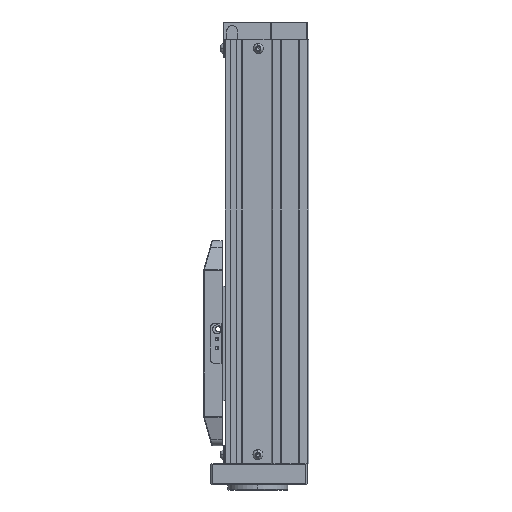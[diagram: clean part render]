
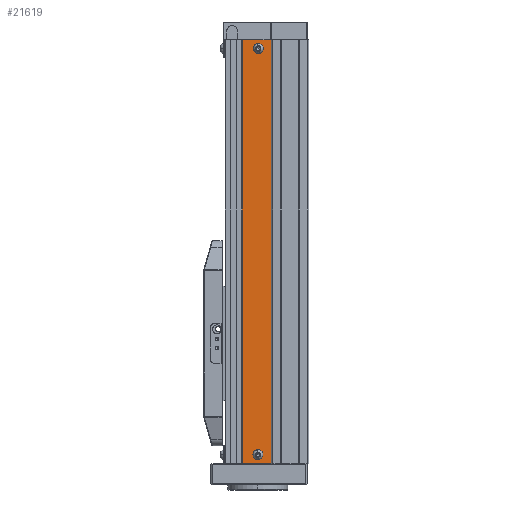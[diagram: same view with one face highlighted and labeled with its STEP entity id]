
A CAD part, left-side view. The second image highlights one B-rep face of the part: STEP entity #21619.
In plain terms, the highlighted planar face has unit normal (-1, 0, 0) as drawn and (1, 0, 0) by its records, which use the part's own axes.
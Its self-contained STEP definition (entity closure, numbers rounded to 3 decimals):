
#219 = DIRECTION ( 'NONE',  ( 0., 0., -1. ) ) ;
#743 = CARTESIAN_POINT ( 'NONE',  ( 0., 0., 240. ) ) ;
#1205 = EDGE_LOOP ( 'NONE', ( #8641, #20088 ) ) ;
#1470 = EDGE_CURVE ( 'NONE', #26528, #14601, #18398, .T. ) ;
#1546 = CARTESIAN_POINT ( 'NONE',  ( 0., 9., 236.75 ) ) ;
#1822 = CARTESIAN_POINT ( 'NONE',  ( 0., 8.5, 3.25 ) ) ;
#2071 = CARTESIAN_POINT ( 'NONE',  ( 0., 17.6, 240. ) ) ;
#2505 = DIRECTION ( 'NONE',  ( 1., 0., 0. ) ) ;
#3129 = DIRECTION ( 'NONE',  ( 0., 0., 1. ) ) ;
#3166 = DIRECTION ( 'NONE',  ( 0., 1., 0. ) ) ;
#3194 = CARTESIAN_POINT ( 'NONE',  ( 0., 9., 233.25 ) ) ;
#3437 = CARTESIAN_POINT ( 'NONE',  ( 0., 0., 240. ) ) ;
#3551 = EDGE_CURVE ( 'NONE', #14601, #26528, #17886, .T. ) ;
#3709 = ORIENTED_EDGE ( 'NONE', *, *, #11452, .T. ) ;
#4288 = LINE ( 'NONE', #7687, #14748 ) ;
#4854 = FACE_BOUND ( 'NONE', #1205, .T. ) ;
#6179 = AXIS2_PLACEMENT_3D ( 'NONE', #13559, #30300, #15957 ) ;
#7238 = VERTEX_POINT ( 'NONE', #13821 ) ;
#7687 = CARTESIAN_POINT ( 'NONE',  ( 0., 0., 240. ) ) ;
#7733 = VERTEX_POINT ( 'NONE', #10950 ) ;
#7773 = CIRCLE ( 'NONE', #8883, 1.75 ) ;
#8641 = ORIENTED_EDGE ( 'NONE', *, *, #1470, .F. ) ;
#8810 = VECTOR ( 'NONE', #20190, 1000. ) ;
#8883 = AXIS2_PLACEMENT_3D ( 'NONE', #16827, #2505, #19247 ) ;
#9705 = VERTEX_POINT ( 'NONE', #2071 ) ;
#10485 = DIRECTION ( 'NONE',  ( 1., 0., 0. ) ) ;
#10707 = EDGE_CURVE ( 'NONE', #24368, #7238, #28311, .T. ) ;
#10950 = CARTESIAN_POINT ( 'NONE',  ( 0., 0., 240. ) ) ;
#11452 = EDGE_CURVE ( 'NONE', #7733, #24368, #27890, .T. ) ;
#12078 = ORIENTED_EDGE ( 'NONE', *, *, #10707, .T. ) ;
#12122 = LINE ( 'NONE', #26502, #28983 ) ;
#12608 = AXIS2_PLACEMENT_3D ( 'NONE', #24837, #10485, #27236 ) ;
#12884 = EDGE_LOOP ( 'NONE', ( #19510, #19807 ) ) ;
#13559 = CARTESIAN_POINT ( 'NONE',  ( 0., 8.5, 5. ) ) ;
#13821 = CARTESIAN_POINT ( 'NONE',  ( 0., 17.6, 0. ) ) ;
#14449 = DIRECTION ( 'NONE',  ( 0., 0., -1. ) ) ;
#14538 = DIRECTION ( 'NONE',  ( 1., 0., 0. ) ) ;
#14601 = VERTEX_POINT ( 'NONE', #16834 ) ;
#14748 = VECTOR ( 'NONE', #19593, 1000. ) ;
#15412 = VERTEX_POINT ( 'NONE', #3194 ) ;
#15957 = DIRECTION ( 'NONE',  ( 0., 0., -1. ) ) ;
#16765 = EDGE_CURVE ( 'NONE', #9705, #7238, #12122, .T. ) ;
#16819 = EDGE_CURVE ( 'NONE', #7733, #9705, #4288, .T. ) ;
#16827 = CARTESIAN_POINT ( 'NONE',  ( 0., 9., 235. ) ) ;
#16834 = CARTESIAN_POINT ( 'NONE',  ( 0., 8.5, 6.75 ) ) ;
#17460 = DIRECTION ( 'NONE',  ( -1., 0., 0. ) ) ;
#17711 = AXIS2_PLACEMENT_3D ( 'NONE', #28874, #14538, #219 ) ;
#17886 = CIRCLE ( 'NONE', #12608, 1.75 ) ;
#18398 = CIRCLE ( 'NONE', #6179, 1.75 ) ;
#19247 = DIRECTION ( 'NONE',  ( 0., 0., -1. ) ) ;
#19510 = ORIENTED_EDGE ( 'NONE', *, *, #24888, .F. ) ;
#19593 = DIRECTION ( 'NONE',  ( 0., 1., 0. ) ) ;
#19807 = ORIENTED_EDGE ( 'NONE', *, *, #31017, .F. ) ;
#20088 = ORIENTED_EDGE ( 'NONE', *, *, #3551, .F. ) ;
#20190 = DIRECTION ( 'NONE',  ( 0., 0., -1. ) ) ;
#20217 = VERTEX_POINT ( 'NONE', #1546 ) ;
#20676 = CARTESIAN_POINT ( 'NONE',  ( 0., 0., 0. ) ) ;
#21619 = ADVANCED_FACE ( 'NONE', ( #29553, #4854, #23219 ), #29374, .F. ) ;
#22322 = CARTESIAN_POINT ( 'NONE',  ( 0., 0., 0. ) ) ;
#23219 = FACE_OUTER_BOUND ( 'NONE', #25605, .T. ) ;
#24368 = VERTEX_POINT ( 'NONE', #20676 ) ;
#24837 = CARTESIAN_POINT ( 'NONE',  ( 0., 8.5, 5. ) ) ;
#24888 = EDGE_CURVE ( 'NONE', #15412, #20217, #29774, .T. ) ;
#25605 = EDGE_LOOP ( 'NONE', ( #12078, #26297, #26254, #3709 ) ) ;
#26254 = ORIENTED_EDGE ( 'NONE', *, *, #16819, .F. ) ;
#26297 = ORIENTED_EDGE ( 'NONE', *, *, #16765, .F. ) ;
#26502 = CARTESIAN_POINT ( 'NONE',  ( 0., 17.6, 240. ) ) ;
#26528 = VERTEX_POINT ( 'NONE', #1822 ) ;
#27236 = DIRECTION ( 'NONE',  ( 0., 0., -1. ) ) ;
#27890 = LINE ( 'NONE', #3437, #8810 ) ;
#28311 = LINE ( 'NONE', #22322, #29040 ) ;
#28874 = CARTESIAN_POINT ( 'NONE',  ( 0., 9., 235. ) ) ;
#28983 = VECTOR ( 'NONE', #14449, 1000. ) ;
#29040 = VECTOR ( 'NONE', #3166, 1000. ) ;
#29244 = AXIS2_PLACEMENT_3D ( 'NONE', #743, #17460, #3129 ) ;
#29374 = PLANE ( 'NONE',  #29244 ) ;
#29553 = FACE_BOUND ( 'NONE', #12884, .T. ) ;
#29774 = CIRCLE ( 'NONE', #17711, 1.75 ) ;
#30300 = DIRECTION ( 'NONE',  ( 1., 0., 0. ) ) ;
#31017 = EDGE_CURVE ( 'NONE', #20217, #15412, #7773, .T. ) ;
